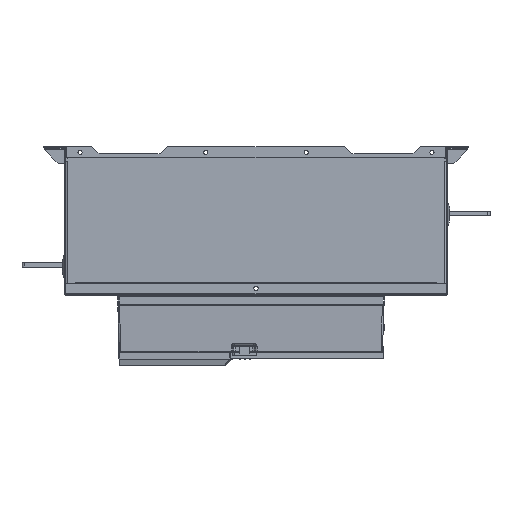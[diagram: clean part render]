
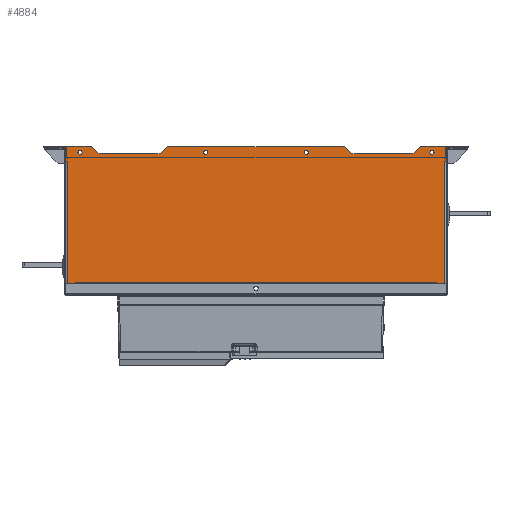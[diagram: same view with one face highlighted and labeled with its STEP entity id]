
A CAD part, front view. The second image highlights one B-rep face of the part: STEP entity #4884.
In plain terms, the highlighted planar face has unit normal (0, -1, 0) as drawn and (0, 0, 1) by its records, which use the part's own axes.
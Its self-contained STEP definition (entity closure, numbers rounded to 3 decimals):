
#4884=ADVANCED_FACE('',(#36162,#36164,#36166,#36168,#36170),#36172,.F.);
#36162=FACE_BOUND('',#36163,.T.);
#36163=EDGE_LOOP('',(#67191,#67192,#67193,#67194,#67195,#67196,#67197,#67198,#67199,
#67200,#67201,#67202,#67203,#67204,#67205,#67206,#67207,#67208,#67209,#67210));
#36164=FACE_BOUND('',#36165,.T.);
#36165=EDGE_LOOP('',(#67211));
#36166=FACE_BOUND('',#36167,.T.);
#36167=EDGE_LOOP('',(#67212));
#36168=FACE_BOUND('',#36169,.T.);
#36169=EDGE_LOOP('',(#67213));
#36170=FACE_BOUND('',#36171,.T.);
#36171=EDGE_LOOP('',(#67214));
#36172=PLANE('',#36173);
#36173=AXIS2_PLACEMENT_3D('',#36174,#36175,#36176);
#36174=CARTESIAN_POINT('',(0.,0.,1.5));
#36175=DIRECTION('',(0.,0.,-1.));
#36176=DIRECTION('',(0.,1.,0.));
#67191=ORIENTED_EDGE('',*,*,#91383,.F.);
#67192=ORIENTED_EDGE('',*,*,#91384,.F.);
#67193=ORIENTED_EDGE('',*,*,#91385,.F.);
#67194=ORIENTED_EDGE('',*,*,#91386,.F.);
#67195=ORIENTED_EDGE('',*,*,#91387,.F.);
#67196=ORIENTED_EDGE('',*,*,#91388,.F.);
#67197=ORIENTED_EDGE('',*,*,#91389,.F.);
#67198=ORIENTED_EDGE('',*,*,#91390,.F.);
#67199=ORIENTED_EDGE('',*,*,#91391,.T.);
#67200=ORIENTED_EDGE('',*,*,#91392,.T.);
#67201=ORIENTED_EDGE('',*,*,#91393,.T.);
#67202=ORIENTED_EDGE('',*,*,#91284,.T.);
#67203=ORIENTED_EDGE('',*,*,#91382,.F.);
#67204=ORIENTED_EDGE('',*,*,#91380,.T.);
#67205=ORIENTED_EDGE('',*,*,#91347,.T.);
#67206=ORIENTED_EDGE('',*,*,#91342,.T.);
#67207=ORIENTED_EDGE('',*,*,#91340,.T.);
#67208=ORIENTED_EDGE('',*,*,#91338,.F.);
#67209=ORIENTED_EDGE('',*,*,#91336,.F.);
#67210=ORIENTED_EDGE('',*,*,#91334,.F.);
#67211=ORIENTED_EDGE('',*,*,#91394,.F.);
#67212=ORIENTED_EDGE('',*,*,#91395,.F.);
#67213=ORIENTED_EDGE('',*,*,#91396,.F.);
#67214=ORIENTED_EDGE('',*,*,#91397,.F.);
#91284=EDGE_CURVE('',#101349,#101346,#101350,.T.);
#91334=EDGE_CURVE('',#101434,#101436,#101437,.T.);
#91336=EDGE_CURVE('',#101436,#101439,#101440,.T.);
#91338=EDGE_CURVE('',#101439,#101442,#101443,.T.);
#91340=EDGE_CURVE('',#101445,#101442,#101446,.T.);
#91342=EDGE_CURVE('',#101448,#101445,#101449,.T.);
#91347=EDGE_CURVE('',#101456,#101448,#101457,.T.);
#91380=EDGE_CURVE('',#101510,#101456,#101511,.T.);
#91382=EDGE_CURVE('',#101510,#101346,#101513,.T.);
#91383=EDGE_CURVE('',#101514,#101434,#101515,.T.);
#91384=EDGE_CURVE('',#101516,#101514,#101517,.T.);
#91385=EDGE_CURVE('',#101518,#101516,#101519,.T.);
#91386=EDGE_CURVE('',#101520,#101518,#101521,.T.);
#91387=EDGE_CURVE('',#101522,#101520,#101523,.T.);
#91388=EDGE_CURVE('',#101524,#101522,#101525,.T.);
#91389=EDGE_CURVE('',#101526,#101524,#101527,.T.);
#91390=EDGE_CURVE('',#101528,#101526,#101529,.T.);
#91391=EDGE_CURVE('',#101528,#101530,#101531,.T.);
#91392=EDGE_CURVE('',#101530,#101532,#101533,.T.);
#91393=EDGE_CURVE('',#101532,#101349,#101534,.T.);
#91394=EDGE_CURVE('',#101535,#101535,#101536,.T.);
#91395=EDGE_CURVE('',#101537,#101537,#101538,.T.);
#91396=EDGE_CURVE('',#101539,#101539,#101540,.T.);
#91397=EDGE_CURVE('',#101541,#101541,#101542,.T.);
#101346=VERTEX_POINT('',#117724);
#101349=VERTEX_POINT('',#117732);
#101350=LINE('',#117733,#117734);
#101434=VERTEX_POINT('',#117928);
#101436=VERTEX_POINT('',#117932);
#101437=LINE('',#117933,#117934);
#101439=VERTEX_POINT('',#117939);
#101440=LINE('',#117940,#117941);
#101442=VERTEX_POINT('',#117946);
#101443=LINE('',#117947,#117948);
#101445=VERTEX_POINT('',#117953);
#101446=LINE('',#117954,#117955);
#101448=VERTEX_POINT('',#117960);
#101449=LINE('',#117961,#117962);
#101456=VERTEX_POINT('',#117980);
#101457=LINE('',#117981,#117982);
#101510=VERTEX_POINT('',#118108);
#101511=LINE('',#118109,#118110);
#101513=LINE('',#118115,#118116);
#101514=VERTEX_POINT('',#118118);
#101515=LINE('',#118119,#118120);
#101516=VERTEX_POINT('',#118122);
#101517=LINE('',#118123,#118124);
#101518=VERTEX_POINT('',#118126);
#101519=LINE('',#118127,#118128);
#101520=VERTEX_POINT('',#118130);
#101521=LINE('',#118131,#118132);
#101522=VERTEX_POINT('',#118134);
#101523=LINE('',#118135,#118136);
#101524=VERTEX_POINT('',#118138);
#101525=LINE('',#118139,#118140);
#101526=VERTEX_POINT('',#118142);
#101527=LINE('',#118143,#118144);
#101528=VERTEX_POINT('',#118146);
#101529=LINE('',#118147,#118148);
#101530=VERTEX_POINT('',#118150);
#101531=LINE('',#118151,#118152);
#101532=VERTEX_POINT('',#118154);
#101533=LINE('',#118155,#118156);
#101534=LINE('',#118158,#118159);
#101535=VERTEX_POINT('',#118161);
#101536=CIRCLE('',#118162,2.7);
#101537=VERTEX_POINT('',#118166);
#101538=CIRCLE('',#118167,2.7);
#101539=VERTEX_POINT('',#118171);
#101540=CIRCLE('',#118172,2.7);
#101541=VERTEX_POINT('',#118176);
#101542=CIRCLE('',#118177,2.7);
#117724=CARTESIAN_POINT('',(13.,178.3,1.5));
#117732=CARTESIAN_POINT('',(487.,178.3,1.5));
#117733=CARTESIAN_POINT('',(487.,178.3,1.5));
#117734=VECTOR('',#117735,1.);
#117735=DIRECTION('',(-1.,0.,0.));
#117928=CARTESIAN_POINT('',(124.,9.,1.5));
#117932=CARTESIAN_POINT('',(44.,9.,1.5));
#117933=CARTESIAN_POINT('',(124.,9.,1.5));
#117934=VECTOR('',#117935,1.);
#117935=DIRECTION('',(-1.,0.,0.));
#117939=CARTESIAN_POINT('',(34.,0.,1.5));
#117940=CARTESIAN_POINT('',(44.,9.,1.5));
#117941=VECTOR('',#117942,1.);
#117942=DIRECTION('',(-0.743,-0.669,0.));
#117946=CARTESIAN_POINT('',(0.,0.,1.5));
#117947=CARTESIAN_POINT('',(34.,0.,1.5));
#117948=VECTOR('',#117949,1.);
#117949=DIRECTION('',(-1.,0.,0.));
#117953=CARTESIAN_POINT('',(0.,19.,1.5));
#117954=CARTESIAN_POINT('',(0.,19.,1.5));
#117955=VECTOR('',#117956,1.);
#117956=DIRECTION('',(0.,-1.,0.));
#117960=CARTESIAN_POINT('',(2.25,19.,1.5));
#117961=CARTESIAN_POINT('',(2.25,19.,1.5));
#117962=VECTOR('',#117963,1.);
#117963=DIRECTION('',(-1.,0.,0.));
#117980=CARTESIAN_POINT('',(2.25,180.,1.5));
#117981=CARTESIAN_POINT('',(2.25,180.,1.5));
#117982=VECTOR('',#117983,1.);
#117983=DIRECTION('',(0.,-1.,0.));
#118108=CARTESIAN_POINT('',(13.,180.,1.5));
#118109=CARTESIAN_POINT('',(13.,180.,1.5));
#118110=VECTOR('',#118111,1.);
#118111=DIRECTION('',(-1.,0.,0.));
#118115=CARTESIAN_POINT('',(13.,180.,1.5));
#118116=VECTOR('',#118117,1.);
#118117=DIRECTION('',(0.,-1.,0.));
#118118=CARTESIAN_POINT('',(134.,0.,1.5));
#118119=CARTESIAN_POINT('',(134.,0.,1.5));
#118120=VECTOR('',#118121,1.);
#118121=DIRECTION('',(-0.743,0.669,0.));
#118122=CARTESIAN_POINT('',(366.,0.,1.5));
#118123=CARTESIAN_POINT('',(366.,0.,1.5));
#118124=VECTOR('',#118125,1.);
#118125=DIRECTION('',(-1.,0.,0.));
#118126=CARTESIAN_POINT('',(376.,9.,1.5));
#118127=CARTESIAN_POINT('',(376.,9.,1.5));
#118128=VECTOR('',#118129,1.);
#118129=DIRECTION('',(-0.743,-0.669,0.));
#118130=CARTESIAN_POINT('',(456.,9.,1.5));
#118131=CARTESIAN_POINT('',(456.,9.,1.5));
#118132=VECTOR('',#118133,1.);
#118133=DIRECTION('',(-1.,0.,0.));
#118134=CARTESIAN_POINT('',(466.,0.,1.5));
#118135=CARTESIAN_POINT('',(466.,0.,1.5));
#118136=VECTOR('',#118137,1.);
#118137=DIRECTION('',(-0.743,0.669,0.));
#118138=CARTESIAN_POINT('',(500.,0.,1.5));
#118139=CARTESIAN_POINT('',(500.,0.,1.5));
#118140=VECTOR('',#118141,1.);
#118141=DIRECTION('',(-1.,0.,0.));
#118142=CARTESIAN_POINT('',(500.,19.,1.5));
#118143=CARTESIAN_POINT('',(500.,19.,1.5));
#118144=VECTOR('',#118145,1.);
#118145=DIRECTION('',(0.,-1.,0.));
#118146=CARTESIAN_POINT('',(497.75,19.,1.5));
#118147=CARTESIAN_POINT('',(497.75,19.,1.5));
#118148=VECTOR('',#118149,1.);
#118149=DIRECTION('',(1.,0.,0.));
#118150=CARTESIAN_POINT('',(497.75,180.,1.5));
#118151=CARTESIAN_POINT('',(497.75,19.,1.5));
#118152=VECTOR('',#118153,1.);
#118153=DIRECTION('',(0.,1.,0.));
#118154=CARTESIAN_POINT('',(487.,180.,1.5));
#118155=CARTESIAN_POINT('',(497.75,180.,1.5));
#118156=VECTOR('',#118157,1.);
#118157=DIRECTION('',(-1.,0.,0.));
#118158=CARTESIAN_POINT('',(487.,180.,1.5));
#118159=VECTOR('',#118160,1.);
#118160=DIRECTION('',(0.,-1.,0.));
#118161=CARTESIAN_POINT('',(19.,4.8,1.5));
#118162=AXIS2_PLACEMENT_3D('',#118163,#118164,#118165);
#118163=CARTESIAN_POINT('',(19.,7.5,1.5));
#118164=DIRECTION('',(0.,0.,1.));
#118165=DIRECTION('',(0.,-1.,0.));
#118166=CARTESIAN_POINT('',(184.,4.8,1.5));
#118167=AXIS2_PLACEMENT_3D('',#118168,#118169,#118170);
#118168=CARTESIAN_POINT('',(184.,7.5,1.5));
#118169=DIRECTION('',(0.,0.,1.));
#118170=DIRECTION('',(0.,-1.,0.));
#118171=CARTESIAN_POINT('',(316.,4.8,1.5));
#118172=AXIS2_PLACEMENT_3D('',#118173,#118174,#118175);
#118173=CARTESIAN_POINT('',(316.,7.5,1.5));
#118174=DIRECTION('',(0.,0.,1.));
#118175=DIRECTION('',(0.,-1.,0.));
#118176=CARTESIAN_POINT('',(481.,10.2,1.5));
#118177=AXIS2_PLACEMENT_3D('',#118178,#118179,#118180);
#118178=CARTESIAN_POINT('',(481.,7.5,1.5));
#118179=DIRECTION('',(0.,0.,1.));
#118180=DIRECTION('',(0.,1.,0.));
